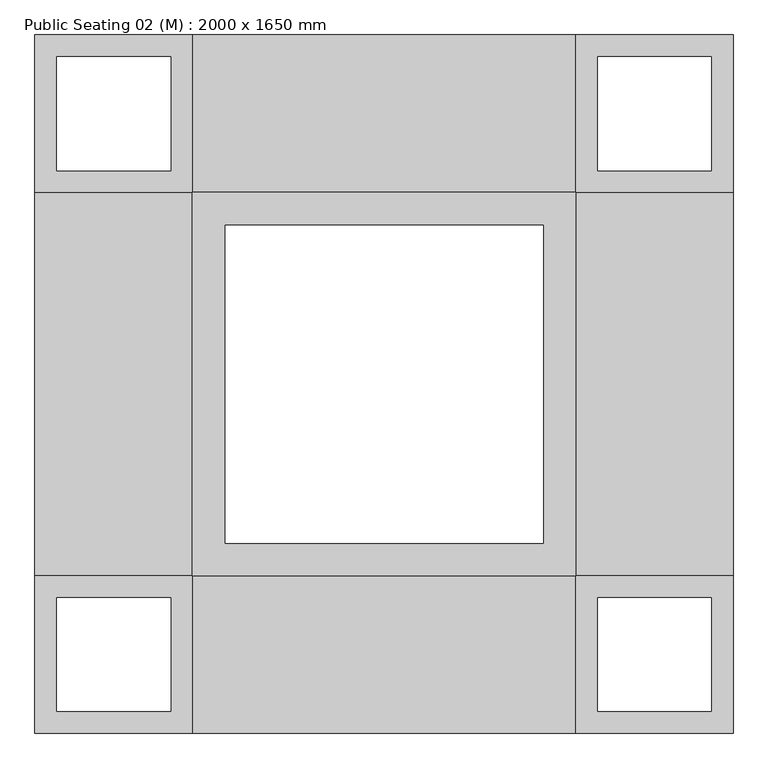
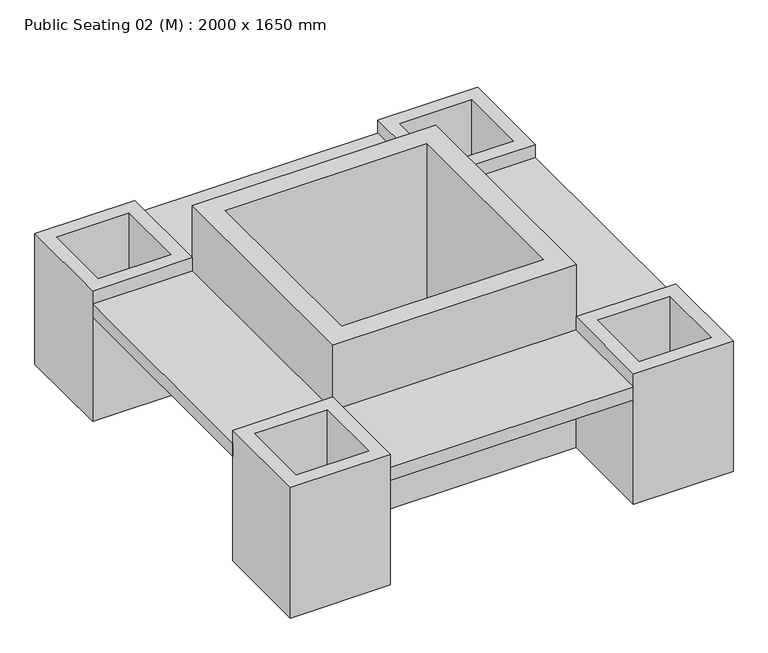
"""IFC4 building model written with IfcOpenShell, lengths in millimetres: geographic element geometry, Public Seating 02 (M) : 2000 x 1650 mm."""

import ifcopenshell
import ifcopenshell.guid

model = None  # the IFC model being written
_history = None  # IfcOwnerHistory: only IFC2X3 demands one
_inside = {}  # id of a spatial element -> (the spatial element, [elements in it])
_under = {}  # id of a project, library or spatial element -> (it, [spatial elements below it])
_declared = {}  # id of a project -> (the project, [libraries it declares])
_typed = {}  # id of a type object -> (the type object, [elements of that type])
_made_of = {}  # id of a material, layer set ... -> (it, [elements and type objects made of it])


def new_model(schema):
    """Start an empty IFC model of exactly this schema.

    Asked for "IFC4X3", IfcOpenShell would pick the latest addendum, in which some entities
    have other attributes; the version numbers below select the first issue.
    IFC2X3 requires an IfcOwnerHistory on every rooted entity: one is made here for all.
    """
    global model, _history
    if schema == "IFC4X3":
        model = ifcopenshell.file(schema_version=(4, 3, 0, 0))
    else:
        model = ifcopenshell.file(schema=schema)
    _inside.clear()
    _under.clear()
    _declared.clear()
    _typed.clear()
    _made_of.clear()
    _history = None
    if model.schema == "IFC2X3":
        org = make("IfcOrganization", Name="unknown")
        user = make(
            "IfcPersonAndOrganization",
            ThePerson=make("IfcPerson", FamilyName="unknown"),
            TheOrganization=org,
        )
        app = make(
            "IfcApplication",
            ApplicationDeveloper=org,
            Version="unknown",
            ApplicationFullName="unknown",
            ApplicationIdentifier="unknown",
        )
        _history = make(
            "IfcOwnerHistory",
            OwningUser=user,
            OwningApplication=app,
            ChangeAction="ADDED",
            CreationDate=0,
        )
    return model


def make(cls, **values):
    """One entity of the class cls with the attributes given. An attribute that is None is left unset."""
    return model.create_entity(
        cls, **{name: value for name, value in values.items() if value is not None}
    )


def rooted(cls, **values):
    """An entity with a GlobalId (a new one), such as an element, a storey or a relation."""
    return make(cls, GlobalId=ifcopenshell.guid.new(), OwnerHistory=_history, **values)


def si_unit(unit_type, name, prefix=None):
    """IfcSIUnit, for example si_unit("LENGTHUNIT", "METRE", prefix="MILLI")."""
    return make("IfcSIUnit", UnitType=unit_type, Prefix=prefix, Name=name)


def assignment(units):
    """IfcUnitAssignment: the units of a project."""
    return None if units is None else make("IfcUnitAssignment", Units=units)


def point(xyz):
    """IfcCartesianPoint."""
    return None if xyz is None else make("IfcCartesianPoint", Coordinates=xyz)


def direction(xyz):
    """IfcDirection."""
    return None if xyz is None else make("IfcDirection", DirectionRatios=xyz)


def frame(location, z_axis=None, x_axis=None):
    """IfcAxis2Placement3D, a coordinate frame: its origin and axes. An axis left out is left unset."""
    return make(
        "IfcAxis2Placement3D",
        Location=point(location),
        Axis=direction(z_axis),
        RefDirection=direction(x_axis),
    )


def origin():
    """The frame at (0, 0, 0) with its axes left unset."""
    return frame((0.0, 0.0, 0.0))


def origin_with_axes():
    """The frame at (0, 0, 0) with the z axis (0, 0, 1) and the x axis (1, 0, 0) written out."""
    return frame((0.0, 0.0, 0.0), z_axis=(0.0, 0.0, 1.0), x_axis=(1.0, 0.0, 0.0))


def place(relative_to, where):
    """IfcLocalPlacement: puts the frame where relative to a parent placement (None: the world)."""
    return make(
        "IfcLocalPlacement", PlacementRelTo=relative_to, RelativePlacement=where
    )


def context(
    kind, dimensions, precision=None, world=None, true_north=None, identifier=None
):
    """IfcGeometricRepresentationContext, for example the 3D "Model" context."""
    return make(
        "IfcGeometricRepresentationContext",
        ContextIdentifier=identifier,
        ContextType=kind,
        CoordinateSpaceDimension=dimensions,
        Precision=precision,
        WorldCoordinateSystem=world,
        TrueNorth=true_north,
    )


def project(units=None, contexts=None):
    """IfcProject with its units and contexts."""
    return rooted(
        "IfcProject",
        Name="project",
        RepresentationContexts=contexts,
        UnitsInContext=assignment(units),
    )


def spatial(cls, under=None, at=None, **own):
    """A site, building, storey or space (cls), placed at a placement, below another one or the project."""
    s = rooted(cls, ObjectPlacement=at, **own)
    if under is not None:
        _under.setdefault(under.id(), (under, []))[1].append(s)
    return s


def polyline(points):
    """IfcPolyline through the points."""
    return make("IfcPolyline", Points=[point(p) for p in points])


def outline(outer, holes=None, kind="AREA"):
    """IfcArbitraryClosedProfileDef: a profile drawn as a closed curve; with holes, ...WithVoids."""
    if holes is None:
        return make("IfcArbitraryClosedProfileDef", ProfileType=kind, OuterCurve=outer)
    return make(
        "IfcArbitraryProfileDefWithVoids",
        ProfileType=kind,
        OuterCurve=outer,
        InnerCurves=holes,
    )


def extrude(swept, where, along, depth):
    """IfcExtrudedAreaSolid: the profile swept, set in the frame where, extruded along a direction by depth."""
    return make(
        "IfcExtrudedAreaSolid",
        SweptArea=swept,
        Position=where,
        ExtrudedDirection=direction(along),
        Depth=depth,
    )


def shape(context_of_items, identifier, shape_type, items):
    """IfcShapeRepresentation: the items that make up one representation, for example the "Body"."""
    return make(
        "IfcShapeRepresentation",
        ContextOfItems=context_of_items,
        RepresentationIdentifier=identifier,
        RepresentationType=shape_type,
        Items=items,
    )


def source(mapping_origin, context_of_items, identifier, shape_type, items):
    """IfcRepresentationMap: a shape defined once, which mapped items show again and again."""
    return make(
        "IfcRepresentationMap",
        MappingOrigin=mapping_origin,
        MappedRepresentation=shape(context_of_items, identifier, shape_type, items),
    )


def transform(
    local_origin,
    x_axis=None,
    y_axis=None,
    z_axis=None,
    scale=None,
    scale2=None,
    scale3=None,
    uniform=True,
):
    """IfcCartesianTransformationOperator3D, or its non-uniform kind. x_axis, y_axis, z_axis: its Axis1, 2, 3."""
    if uniform:
        return make(
            "IfcCartesianTransformationOperator3D",
            Axis1=direction(x_axis),
            Axis2=direction(y_axis),
            LocalOrigin=point(local_origin),
            Scale=scale,
            Axis3=direction(z_axis),
        )
    return make(
        "IfcCartesianTransformationOperator3DnonUniform",
        Axis1=direction(x_axis),
        Axis2=direction(y_axis),
        LocalOrigin=point(local_origin),
        Scale=scale,
        Axis3=direction(z_axis),
        Scale2=scale2,
        Scale3=scale3,
    )


def mapped(mapping_source, mapping_target):
    """IfcMappedItem: shows the shape of a source again, moved by a transform."""
    return make(
        "IfcMappedItem", MappingSource=mapping_source, MappingTarget=mapping_target
    )


def made_of(thing, what):
    """Note that an element or type object is made of a material, layer set ...; save() writes the relation."""
    if what is not None:
        _made_of.setdefault(what.id(), (what, []))[1].append(thing)
    return thing


def element(
    cls,
    number,
    at=None,
    inside=None,
    cuts=None,
    type_object=None,
    material=None,
    context=None,
    identifier="Body",
    shape_type=None,
    held_by="IfcProductDefinitionShape",
    body=None,
    shapes=None,
    **own,
):
    """One element of the class cls, such as IfcWall. Its Tag is "e" and its number.

    at: its placement. inside: the storey or other place that contains it. cuts: it is an
    opening in that element (IfcRelVoidsElement). A single representation is given by context,
    identifier, shape_type and body (its items); several are given by shapes. held_by: the class
    of the entity that holds the representations. save() writes the other relations.
    """
    e = rooted(cls, Tag="e%d" % number, ObjectPlacement=at, **own)
    if body is not None:
        shapes = [shape(context, identifier, shape_type, body)]
    if shapes is not None:
        e.Representation = make(held_by, Representations=shapes)
    if inside is not None:
        _inside.setdefault(inside.id(), (inside, []))[1].append(e)
    if cuts is not None:
        rooted(
            "IfcRelVoidsElement", RelatingBuildingElement=cuts, RelatedOpeningElement=e
        )
    if type_object is not None:
        _typed.setdefault(type_object.id(), (type_object, []))[1].append(e)
    return made_of(e, material)


def aggregate(whole, parts):
    """IfcRelAggregates: a whole, such as a stair, and the parts it consists of."""
    return rooted("IfcRelAggregates", RelatingObject=whole, RelatedObjects=parts)


def save(model, path):
    """Write the relations noted so far, then the file.

    IfcRelAggregates (storeys below a building ...), IfcRelContainedInSpatialStructure (elements
    in a storey), IfcRelDefinesByType, IfcRelAssociatesMaterial and IfcRelDeclares: one each for
    every whole, place, type object, material and project.
    """
    for whole, parts in _under.values():
        aggregate(whole, parts)
    for where, things in _inside.values():
        rooted(
            "IfcRelContainedInSpatialStructure",
            RelatedElements=things,
            RelatingStructure=where,
        )
    for kind, things in _typed.values():
        rooted("IfcRelDefinesByType", RelatedObjects=things, RelatingType=kind)
    for what, things in _made_of.values():
        rooted("IfcRelAssociatesMaterial", RelatedObjects=things, RelatingMaterial=what)
    for by, libraries in _declared.values():
        rooted("IfcRelDeclares", RelatingContext=by, RelatedDefinitions=libraries)
    model.write(path)


def public_seating_02_m_2000_x_1650_mm_aed0595e(model_context):
    return source(origin(), model_context, "Body", "SweptSolid", [
        extrude(outline(polyline([(788.8927527, 810.8481737), (788.8927527, 450.0), (428.8927527, 450.0), (428.8927527, 810.8481737), (788.8927527, 810.8481737)]), holes=[polyline([(738.8927527, 760.8481737), (478.8927527, 760.8481737), (478.8927527, 500.0), (738.8927527, 500.0), (738.8927527, 760.8481737)])]), origin_with_axes(), (0.0, 0.0, 1.0), 500.0),
        extrude(outline(polyline([(788.8927527, -789.1518263), (428.8927527, -789.1518263), (428.8927527, -429.1518263), (788.8927527, -429.1518263), (788.8927527, -789.1518263)]), holes=[polyline([(738.8927527, -739.1518263), (738.8927527, -479.1518263), (478.8927527, -479.1518263), (478.8927527, -739.1518263), (738.8927527, -739.1518263)])]), origin_with_axes(), (0.0, 0.0, 1.0), 500.0),
        extrude(outline(polyline([(-450.0, -429.1518263), (-450.0, -789.1518263), (-811.1072473, -789.1518263), (-811.1072473, -429.1518263), (-450.0, -429.1518263)]), holes=[polyline([(-500.0, -479.1518263), (-761.1072473, -479.1518263), (-761.1072473, -739.1518263), (-500.0, -739.1518263), (-500.0, -479.1518263)])]), origin_with_axes(), (0.0, 0.0, 1.0), 500.0),
        extrude(outline(polyline([(-811.1072473, 810.8481737), (-450.0, 810.8481737), (-450.0, 450.0), (-811.1072473, 450.0), (-811.1072473, 810.8481737)]), holes=[polyline([(-761.1072473, 760.8481737), (-761.1072473, 500.0), (-500.0, 500.0), (-500.0, 760.8481737), (-761.1072473, 760.8481737)])]), origin_with_axes(), (0.0, 0.0, 1.0), 500.0),
        extrude(outline(polyline([(788.8927527, 450.0), (788.8927527, -429.1518263), (428.8927527, -429.1518263), (428.8927527, 450.0), (788.8927527, 450.0)])), frame((0.0, 0.0, 400.0), z_axis=(0.0, 0.0, 1.0), x_axis=(1.0, 0.0, 0.0)), (0.0, 0.0, 1.0), 50.0),
        extrude(outline(polyline([(-811.1072473, 450.0), (-450.0, 450.0), (-450.0, -429.1518263), (-811.1072473, -429.1518263), (-811.1072473, 450.0)])), frame((0.0, 0.0, 400.0), z_axis=(0.0, 0.0, 1.0), x_axis=(1.0, 0.0, 0.0)), (0.0, 0.0, 1.0), 50.0),
        extrude(outline(polyline([(428.8927527, -428.8927527), (428.8927527, -789.1518263), (-450.0, -789.1518263), (-450.0, -428.8927527), (428.8927527, -428.8927527)])), frame((0.0, 0.0, 400.0), z_axis=(0.0, 0.0, 1.0), x_axis=(1.0, 0.0, 0.0)), (0.0, 0.0, 1.0), 50.0),
        extrude(outline(polyline([(428.8927527, 450.0), (-450.0, 450.0), (-450.0, 810.8481737), (428.8927527, 810.8481737), (428.8927527, 450.0)])), frame((0.0, 0.0, 400.0), z_axis=(0.0, 0.0, 1.0), x_axis=(1.0, 0.0, 0.0)), (0.0, 0.0, 1.0), 50.0),
        extrude(outline(polyline([(428.8927527, 450.0), (428.8927527, -429.1518263), (-450.0, -429.1518263), (-450.0, 450.0), (428.8927527, 450.0)]), holes=[polyline([(353.8927527, 375.0), (-375.0, 375.0), (-375.0, -353.8927527), (353.8927527, -353.8927527), (353.8927527, 375.0)])]), origin_with_axes(), (0.0, 0.0, 1.0), 700.0),
    ])


if __name__ == "__main__":
    model = new_model("IFC4")
    model_context = context("Model", 3, world=origin())
    ifc_project = project(units=[si_unit("LENGTHUNIT", "METRE", prefix="MILLI")], contexts=[model_context])
    site = spatial("IfcSite", under=ifc_project)
    building = spatial("IfcBuilding", under=site)
    placement = place(None, origin())
    public_seating_02_m_2000_x_1650_mm_shape = public_seating_02_m_2000_x_1650_mm_aed0595e(model_context)
    element("IfcGeographicElement", 1, ObjectType="Public Seating 02 (M) : 2000 x 1650 mm", at=placement, inside=building, context=model_context, shape_type="MappedRepresentation", body=[
        mapped(public_seating_02_m_2000_x_1650_mm_shape, transform((0.0, 0.0, 0.0), x_axis=(1.0, 0.0, 0.0), y_axis=(0.0, 1.0, 0.0), z_axis=(0.0, 0.0, 1.0))),
    ])
    save(model, "model.ifc")
